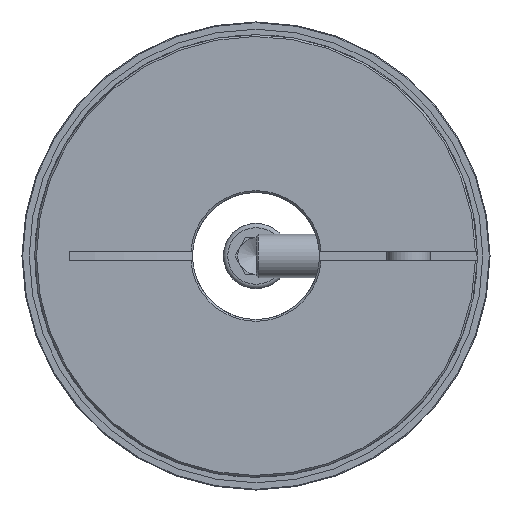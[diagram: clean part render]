
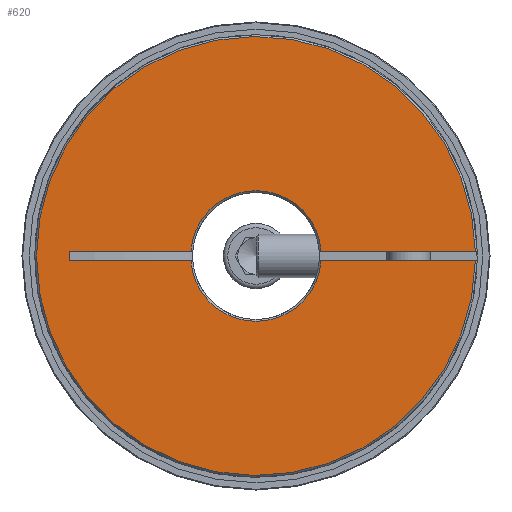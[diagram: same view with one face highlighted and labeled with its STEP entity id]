
A CAD part, left-side view. The second image highlights one B-rep face of the part: STEP entity #620.
In plain terms, the highlighted planar face has unit normal (-1, 0, 0).
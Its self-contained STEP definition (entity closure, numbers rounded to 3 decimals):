
#620 = ADVANCED_FACE( 'NONE', ( #1252 ), #1253, .F. );
#1252 = FACE_OUTER_BOUND( '', #1790, .T. );
#1253 = PLANE( '', #1791 );
#1790 = EDGE_LOOP( '', ( #2812, #2813, #2814, #2815, #2816, #2817, #2818, #2819 ) );
#1791 = AXIS2_PLACEMENT_3D( '', #2820, #2821, #2822 );
#2812 = ORIENTED_EDGE( '', *, *, #3187, .T. );
#2813 = ORIENTED_EDGE( '', *, *, #3180, .T. );
#2814 = ORIENTED_EDGE( '', *, *, #3189, .T. );
#2815 = ORIENTED_EDGE( '', *, *, #3190, .T. );
#2816 = ORIENTED_EDGE( '', *, *, #3172, .F. );
#2817 = ORIENTED_EDGE( '', *, *, #3170, .T. );
#2818 = ORIENTED_EDGE( '', *, *, #3176, .F. );
#2819 = ORIENTED_EDGE( '', *, *, #3179, .T. );
#2820 = CARTESIAN_POINT( '', ( 0., 17.5, 0. ) );
#2821 = DIRECTION( '', ( 1., 0., 0. ) );
#2822 = DIRECTION( '', ( 0., 1., 0. ) );
#3170 = EDGE_CURVE( 'NONE', #3657, #3655, #3658, .T. );
#3172 = EDGE_CURVE( 'NONE', #3657, #3660, #3661, .F. );
#3176 = EDGE_CURVE( 'NONE', #3666, #3655, #3667, .F. );
#3179 = EDGE_CURVE( 'NONE', #3666, #3669, #3671, .T. );
#3180 = EDGE_CURVE( 'NONE', #3672, #3673, #3674, .T. );
#3187 = EDGE_CURVE( 'NONE', #3669, #3672, #3682, .T. );
#3189 = EDGE_CURVE( 'NONE', #3673, #3685, #3686, .T. );
#3190 = EDGE_CURVE( 'NONE', #3685, #3660, #3687, .F. );
#3655 = VERTEX_POINT( 'NONE', #4862 );
#3657 = VERTEX_POINT( 'NONE', #4867 );
#3658 = CIRCLE( '', #4868, 18. );
#3660 = VERTEX_POINT( 'NONE', #4873 );
#3661 = LINE( '', #4874, #4875 );
#3666 = VERTEX_POINT( 'NONE', #4884 );
#3667 = LINE( '', #4885, #4886 );
#3669 = VERTEX_POINT( 'NONE', #4888 );
#3671 = LINE( '', #4890, #4891 );
#3672 = VERTEX_POINT( 'NONE', #4892 );
#3673 = VERTEX_POINT( 'NONE', #4893 );
#3674 = CIRCLE( '', #4894, 18. );
#3682 = LINE( '', #4909, #4910 );
#3685 = VERTEX_POINT( 'NONE', #4913 );
#3686 = LINE( '', #4914, #4915 );
#3687 = CIRCLE( '', #4916, 60.5 );
#4862 = CARTESIAN_POINT( '', ( 0., 17.953, -1.3 ) );
#4867 = CARTESIAN_POINT( '', ( 0., -17.953, -1.3 ) );
#4868 = AXIS2_PLACEMENT_3D( '', #5398, #5399, #5400 );
#4873 = CARTESIAN_POINT( '', ( 0., -60.486, -1.3 ) );
#4874 = CARTESIAN_POINT( '', ( 0., -13., -1.3 ) );
#4875 = VECTOR( '', #5401, 1000. );
#4884 = CARTESIAN_POINT( '', ( 0., 51.446, -1.3 ) );
#4885 = CARTESIAN_POINT( '', ( 0., -13., -1.3 ) );
#4886 = VECTOR( '', #5406, 1000. );
#4888 = CARTESIAN_POINT( '', ( 0., 51.446, 1.3 ) );
#4890 = CARTESIAN_POINT( '', ( 0., 51.446, -1.3 ) );
#4891 = VECTOR( '', #5413, 1000. );
#4892 = CARTESIAN_POINT( '', ( 0., 17.953, 1.3 ) );
#4893 = CARTESIAN_POINT( '', ( 0., -17.953, 1.3 ) );
#4894 = AXIS2_PLACEMENT_3D( '', #5414, #5415, #5416 );
#4909 = CARTESIAN_POINT( '', ( 0., 17.5, 1.3 ) );
#4910 = VECTOR( '', #5427, 1000. );
#4913 = CARTESIAN_POINT( '', ( 0., -60.486, 1.3 ) );
#4914 = CARTESIAN_POINT( '', ( 0., 17.5, 1.3 ) );
#4915 = VECTOR( '', #5431, 1000. );
#4916 = AXIS2_PLACEMENT_3D( '', #5432, #5433, #5434 );
#5398 = CARTESIAN_POINT( '', ( 0., 0., 0. ) );
#5399 = DIRECTION( '', ( 1., 0., 0. ) );
#5400 = DIRECTION( '', ( 0., 0., -1. ) );
#5401 = DIRECTION( '', ( 0., 1., 0. ) );
#5406 = DIRECTION( '', ( 0., 1., 0. ) );
#5413 = DIRECTION( '', ( 0., 0., 1. ) );
#5414 = CARTESIAN_POINT( '', ( 0., 0., 0. ) );
#5415 = DIRECTION( '', ( 1., 0., 0. ) );
#5416 = DIRECTION( '', ( 0., 0., -1. ) );
#5427 = DIRECTION( '', ( 0., -1., 0. ) );
#5431 = DIRECTION( '', ( 0., -1., 0. ) );
#5432 = CARTESIAN_POINT( '', ( 0., 0., 0. ) );
#5433 = DIRECTION( '', ( 1., 0., 0. ) );
#5434 = DIRECTION( '', ( 0., 0., -1. ) );
